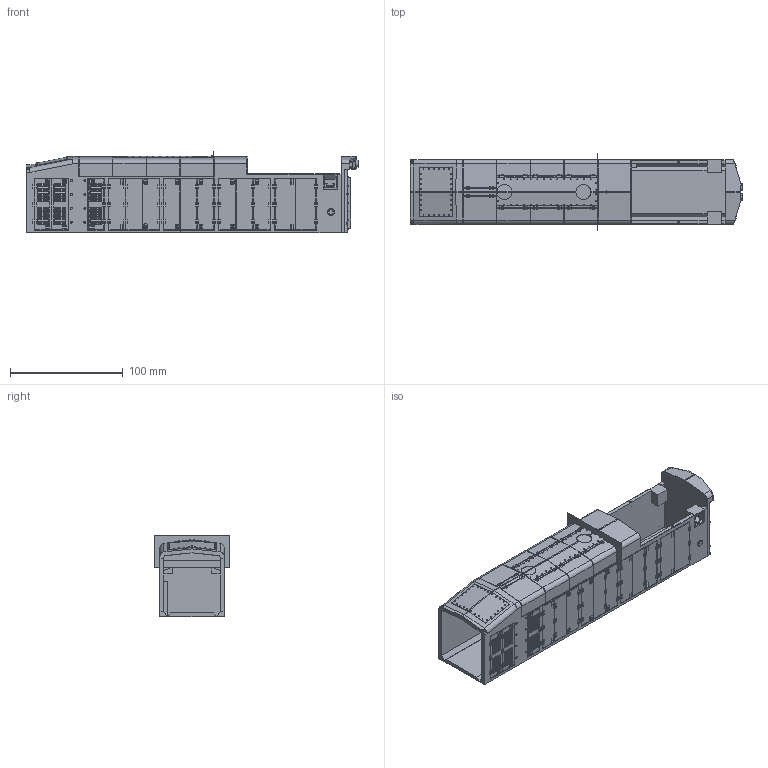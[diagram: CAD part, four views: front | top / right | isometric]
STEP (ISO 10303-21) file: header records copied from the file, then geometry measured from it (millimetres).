
FILE_DESCRIPTION(('STEP AP214'),'1');
FILE_NAME('EMD SW1500.stp','2015-07-08T12:48:21',(' '),(' '),'Spatial InterOp 3D',' ',' ');
FILE_SCHEMA(('automotive_design'));
Length unit declared in the file: millimetre
Products named in the file (11): EMD SW1500
Assembly tree (10 placements, depth 2):
  (unnamed)
    EMD SW1500
    EMD SW1500
    EMD SW1500
    EMD SW1500
    EMD SW1500
    EMD SW1500
    EMD SW1500
    EMD SW1500
    EMD SW1500
    EMD SW1500
Bounding box: 295 x 67.5 x 72.75 mm (x, y, z)
Volume: 392892.5 mm3; surface area: 162733.7 mm2
Topology: 10 solids, 10 shells, 7879 faces, 19402 edges, 12840 vertices
Faces by surface type: plane 7029, cylinder 536, bspline 251, cone 53, extrusion 6, torus 4
Full cylindrical faces by diameter (mm): 0.6 x10, 0.8 x114, 1.7 x8, 1.9 x37, 5.5 x2, 6 x2, 6.3 x2, 6.5 x2, 7 x2
Entity records: 294253 total; most frequent: CARTESIAN_POINT 43950, ORIENTED_EDGE 38406, DIRECTION 36318, EDGE_CURVE 19203, VECTOR 17322, LINE 17316, VERTEX_POINT 12832, AXIS2_PLACEMENT_3D 9498
